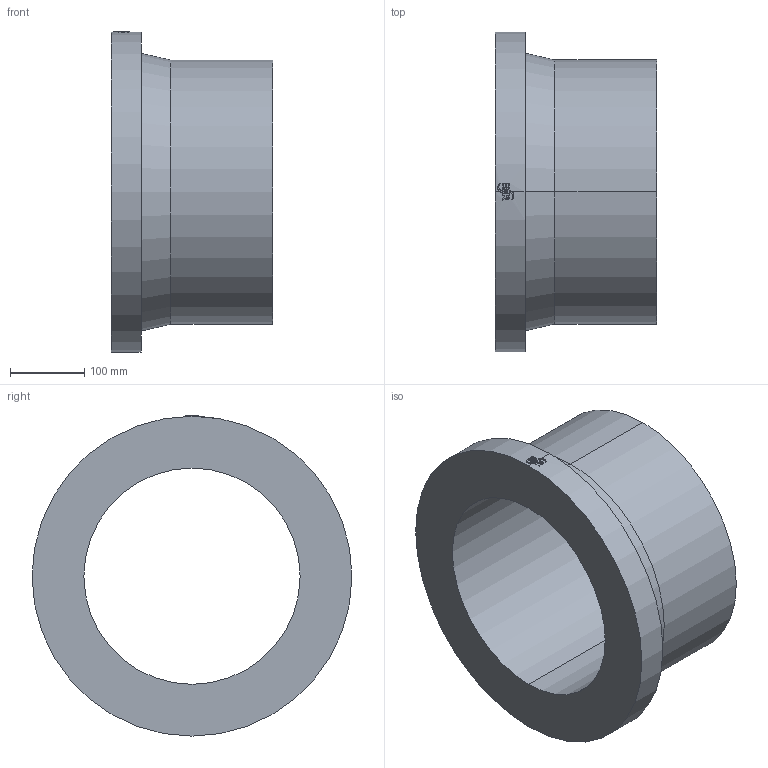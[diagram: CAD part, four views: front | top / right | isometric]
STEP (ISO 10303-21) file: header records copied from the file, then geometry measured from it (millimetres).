
FILE_DESCRIPTION (( 'STEP AP214' ), '1' );
FILE_NAME ('233524F015.STEP', '2018-07-20T11:59:30', ( '' ), ( '' ), 'SwSTEP 2.0', 'SolidWorks 2017', '' );
FILE_SCHEMA (( 'AUTOMOTIVE_DESIGN' ));
Length unit declared in the file: millimetre
Products named in the file (1): 233524F015
Bounding box: 217 x 430 x 430.5 mm (x, y, z)
Volume: 9139805.4 mm3; surface area: 599413.8 mm2
Topology: 1 solids, 1 shells, 60 faces, 154 edges, 102 vertices
Faces by surface type: cylinder 29, plane 29, cone 2
Entity records: 2966 total; most frequent: CARTESIAN_POINT 849, ORIENTED_EDGE 308, DIRECTION 282, EDGE_CURVE 154, AXIS2_PLACEMENT_3D 107, VERTEX_POINT 102, LINE 68, VECTOR 68
